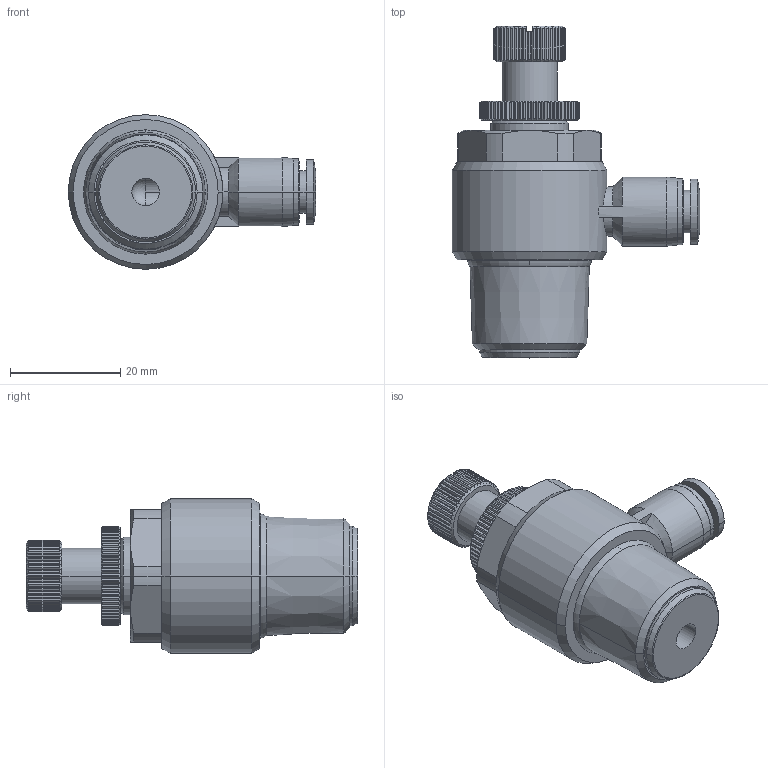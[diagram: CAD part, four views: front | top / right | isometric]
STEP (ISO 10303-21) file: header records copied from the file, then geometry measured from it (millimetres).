
FILE_DESCRIPTION (( 'STEP AP203' ), '1' );
FILE_NAME ('SCL06-04.STEP', '2020-05-12T15:35:16', ( '' ), ( '' ), 'SwSTEP 2.0', 'SolidWorks 2019', '' );
FILE_SCHEMA (( 'CONFIG_CONTROL_DESIGN' ));
Length unit declared in the file: millimetre
Products named in the file (1): SCL06-04
Bounding box: 44.8 x 60.1 x 28 mm (x, y, z)
Volume: 22714 mm3; surface area: 7198.2 mm2
Topology: 1 solids, 1 shells, 579 faces, 1403 edges, 837 vertices
Faces by surface type: plane 259, cone 163, cylinder 150, torus 6, sphere 1
Entity records: 16359 total; most frequent: CARTESIAN_POINT 3865, ORIENTED_EDGE 2804, DIRECTION 2580, EDGE_CURVE 1402, AXIS2_PLACEMENT_3D 1070, VERTEX_POINT 837, EDGE_LOOP 593, FACE_OUTER_BOUND 579
